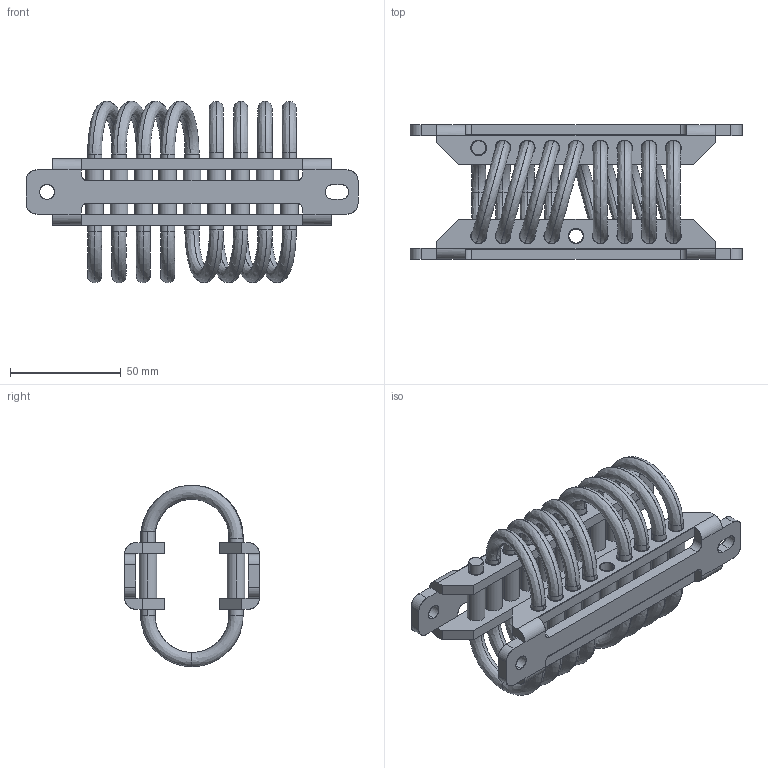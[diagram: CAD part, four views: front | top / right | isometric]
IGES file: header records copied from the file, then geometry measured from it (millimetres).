
Start section: SolidWorks IGES file using analytic representation for surfaces
Bounding box: 150 x 60.8 x 81.98 mm (x, y, z)
Surface area: 71059.4 mm2 (no closed solid volume)
Topology: 0 solids, 0 shells, 276 faces, 6476 edges, 6476 vertices
Faces by surface type: bspline 142, revolution 134
